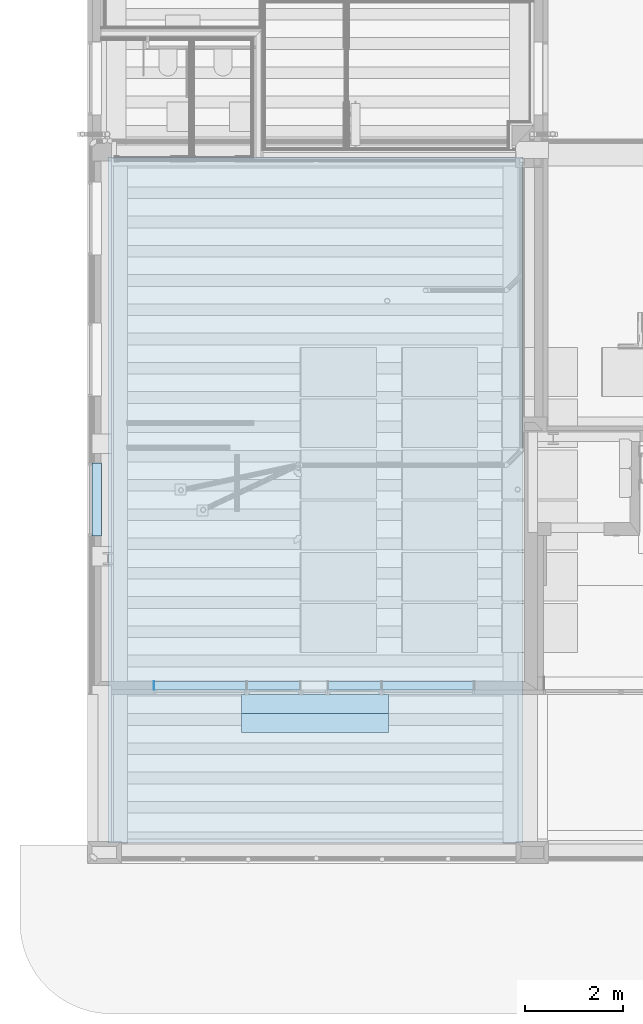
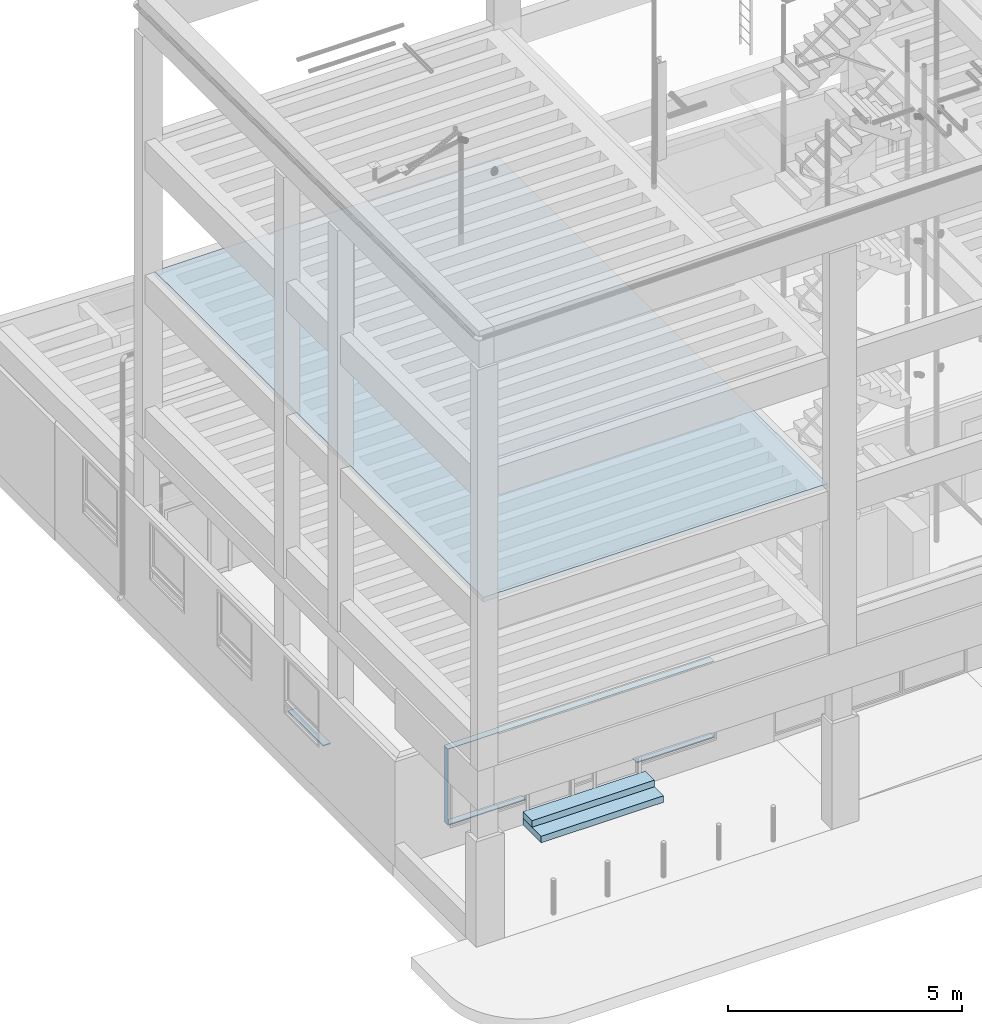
# One storey, part 14 of 108: 8 slabs.
"""IFC2X3 building model written with IfcOpenShell, lengths in metres."""

from ifc_helpers import new_model, entity, si_unit, converted_unit, derived_unit, money_unit, direction, origin_with_axes, place, context, subcontext, project, spatial, faceted_brep, material, type_object, element, save


model = new_model("IFC2X3")

# Units and contexts
model_context = context("Model", 3, precision=1e-05, world=origin_with_axes(), true_north=direction((0.0, 1.0)))
body_context = subcontext(model_context, "Body", "Model", "MODEL_VIEW", scale=1.0)
ifc_project = project(units=[si_unit("LENGTHUNIT", "METRE"), si_unit("AREAUNIT", "SQUARE_METRE"), si_unit("VOLUMEUNIT", "CUBIC_METRE"), si_unit("ABSORBEDDOSEUNIT", "GRAY"), si_unit("AMOUNTOFSUBSTANCEUNIT", "MOLE"), si_unit("DOSEEQUIVALENTUNIT", "SIEVERT"), si_unit("ELECTRICCAPACITANCEUNIT", "FARAD"), si_unit("ELECTRICCHARGEUNIT", "COULOMB"), si_unit("ELECTRICCONDUCTANCEUNIT", "SIEMENS"), si_unit("ELECTRICCURRENTUNIT", "AMPERE"), si_unit("ELECTRICRESISTANCEUNIT", "OHM"), si_unit("ELECTRICVOLTAGEUNIT", "VOLT"), si_unit("ENERGYUNIT", "JOULE"), si_unit("FORCEUNIT", "NEWTON"), si_unit("FREQUENCYUNIT", "HERTZ"), si_unit("ILLUMINANCEUNIT", "LUX"), si_unit("INDUCTANCEUNIT", "HENRY"), si_unit("LUMINOUSFLUXUNIT", "LUMEN"), si_unit("LUMINOUSINTENSITYUNIT", "CANDELA"), si_unit("MAGNETICFLUXDENSITYUNIT", "TESLA"), si_unit("MAGNETICFLUXUNIT", "WEBER"), si_unit("MASSUNIT", "GRAM"), converted_unit("PLANEANGLEUNIT", "degree", entity("IfcReal", 0.0174532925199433), si_unit("PLANEANGLEUNIT", "RADIAN"), dimensions=[0, 0, 0, 0, 0, 0, 0]), si_unit("POWERUNIT", "WATT"), si_unit("PRESSUREUNIT", "PASCAL"), si_unit("RADIOACTIVITYUNIT", "BECQUEREL"), si_unit("SOLIDANGLEUNIT", "STERADIAN"), si_unit("THERMODYNAMICTEMPERATUREUNIT", "KELVIN"), si_unit("TIMEUNIT", "SECOND"), derived_unit("ACCELERATIONUNIT", [(si_unit("LENGTHUNIT", "METRE"), 1), (si_unit("TIMEUNIT", "SECOND"), -2)]), derived_unit("ANGULARVELOCITYUNIT", [(converted_unit("PLANEANGLEUNIT", "degree", entity("IfcReal", 0.0174532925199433), si_unit("PLANEANGLEUNIT", "RADIAN"), dimensions=[0, 0, 0, 0, 0, 0, 0]), 1), (si_unit("TIMEUNIT", "SECOND"), -1)]), derived_unit("CURVATUREUNIT", [(converted_unit("PLANEANGLEUNIT", "degree", entity("IfcReal", 0.0174532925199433), si_unit("PLANEANGLEUNIT", "RADIAN"), dimensions=[0, 0, 0, 0, 0, 0, 0]), 1), (si_unit("LENGTHUNIT", "METRE"), -1)]), derived_unit("DYNAMICVISCOSITYUNIT", [(si_unit("PRESSUREUNIT", "PASCAL"), 1), (si_unit("TIMEUNIT", "SECOND"), 1)]), derived_unit("HEATFLUXDENSITYUNIT", [(si_unit("POWERUNIT", "WATT"), 1), (si_unit("LENGTHUNIT", "METRE"), -2)]), derived_unit("HEATINGVALUEUNIT", [(si_unit("ENERGYUNIT", "JOULE"), 1), (si_unit("MASSUNIT", "GRAM"), -1)]), derived_unit("INTEGERCOUNTRATEUNIT", [(si_unit("TIMEUNIT", "SECOND"), -1)]), derived_unit("IONCONCENTRATIONUNIT", [(si_unit("MASSUNIT", "GRAM"), 1), (si_unit("VOLUMEUNIT", "CUBIC_METRE"), -1)]), derived_unit("ISOTHERMALMOISTURECAPACITYUNIT", [(si_unit("VOLUMEUNIT", "CUBIC_METRE"), 1), (si_unit("MASSUNIT", "GRAM"), -1)]), derived_unit("KINEMATICVISCOSITYUNIT", [(si_unit("AREAUNIT", "SQUARE_METRE"), 1), (si_unit("TIMEUNIT", "SECOND"), -1)]), derived_unit("LINEARFORCEUNIT", [(si_unit("FORCEUNIT", "NEWTON"), 1), (si_unit("LENGTHUNIT", "METRE"), -1)]), derived_unit("LINEARMOMENTUNIT", [(si_unit("FORCEUNIT", "NEWTON"), 1), (si_unit("LENGTHUNIT", "METRE"), -1)]), derived_unit("LINEARSTIFFNESSUNIT", [(si_unit("FORCEUNIT", "NEWTON"), 1), (si_unit("LENGTHUNIT", "METRE"), -1)]), derived_unit("LINEARVELOCITYUNIT", [(si_unit("LENGTHUNIT", "METRE"), 1), (si_unit("TIMEUNIT", "SECOND"), -1)]), derived_unit("LUMINOUSINTENSITYDISTRIBUTIONUNIT", [(si_unit("LUMINOUSINTENSITYUNIT", "CANDELA"), 1), (si_unit("LUMINOUSFLUXUNIT", "LUMEN"), -1)]), derived_unit("MASSDENSITYUNIT", [(si_unit("MASSUNIT", "GRAM"), 1), (si_unit("VOLUMEUNIT", "CUBIC_METRE"), -1)]), derived_unit("MASSFLOWRATEUNIT", [(si_unit("MASSUNIT", "GRAM"), 1), (si_unit("TIMEUNIT", "SECOND"), -1)]), derived_unit("MASSPERLENGTHUNIT", [(si_unit("MASSUNIT", "GRAM"), 1), (si_unit("LENGTHUNIT", "METRE"), -1)]), derived_unit("MODULUSOFELASTICITYUNIT", [(si_unit("FORCEUNIT", "NEWTON"), 1), (si_unit("AREAUNIT", "SQUARE_METRE"), -1)]), derived_unit("MODULUSOFLINEARSUBGRADEREACTIONUNIT", [(si_unit("FORCEUNIT", "NEWTON"), 1), (si_unit("LENGTHUNIT", "METRE"), -2)]), derived_unit("MODULUSOFROTATIONALSUBGRADEREACTIONUNIT", [(si_unit("FORCEUNIT", "NEWTON"), 1), (si_unit("LENGTHUNIT", "METRE"), 1)]), derived_unit("MODULUSOFSUBGRADEREACTIONUNIT", [(si_unit("FORCEUNIT", "NEWTON"), 1), (si_unit("VOLUMEUNIT", "CUBIC_METRE"), -1)]), derived_unit("MOISTUREDIFFUSIVITYUNIT", [(si_unit("VOLUMEUNIT", "CUBIC_METRE"), 1), (si_unit("TIMEUNIT", "SECOND"), -1)]), derived_unit("MOLECULARWEIGHTUNIT", [(si_unit("MASSUNIT", "GRAM"), 1), (si_unit("AMOUNTOFSUBSTANCEUNIT", "MOLE"), -1)]), derived_unit("PLANARFORCEUNIT", [(si_unit("FORCEUNIT", "NEWTON"), 1), (si_unit("LENGTHUNIT", "METRE"), -2)]), derived_unit("ROTATIONALFREQUENCYUNIT", [(si_unit("TIMEUNIT", "SECOND"), -1)]), derived_unit("ROTATIONALMASSUNIT", [(si_unit("MASSUNIT", "GRAM"), 1), (si_unit("LENGTHUNIT", "METRE"), 2)]), derived_unit("ROTATIONALSTIFFNESSUNIT", [(si_unit("FORCEUNIT", "NEWTON"), 1), (si_unit("LENGTHUNIT", "METRE"), 1), (converted_unit("PLANEANGLEUNIT", "degree", entity("IfcReal", 0.0174532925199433), si_unit("PLANEANGLEUNIT", "RADIAN"), dimensions=[0, 0, 0, 0, 0, 0, 0]), -1)]), derived_unit("SECTIONAREAINTEGRALUNIT", [(si_unit("LENGTHUNIT", "METRE"), 5)]), derived_unit("SECTIONMODULUSUNIT", [(si_unit("LENGTHUNIT", "METRE"), 3)]), derived_unit("SHEARMODULUSUNIT", [(si_unit("FORCEUNIT", "NEWTON"), 1), (si_unit("AREAUNIT", "SQUARE_METRE"), -1)]), derived_unit("SOUNDPOWERUNIT", [(si_unit("ENERGYUNIT", "JOULE"), 1), (si_unit("TIMEUNIT", "SECOND"), -1)]), derived_unit("SPECIFICHEATCAPACITYUNIT", [(si_unit("FORCEUNIT", "NEWTON"), 1), (si_unit("MASSUNIT", "GRAM"), -1), (si_unit("THERMODYNAMICTEMPERATUREUNIT", "KELVIN"), -1)]), derived_unit("TEMPERATUREGRADIENTUNIT", [(si_unit("THERMODYNAMICTEMPERATUREUNIT", "KELVIN"), 1), (si_unit("LENGTHUNIT", "METRE"), -1)]), derived_unit("THERMALADMITTANCEUNIT", [(si_unit("POWERUNIT", "WATT"), 1), (si_unit("AREAUNIT", "SQUARE_METRE"), -1), (si_unit("THERMODYNAMICTEMPERATUREUNIT", "KELVIN"), -1)]), derived_unit("THERMALCONDUCTANCEUNIT", [(si_unit("POWERUNIT", "WATT"), 1), (si_unit("LENGTHUNIT", "METRE"), -1), (si_unit("THERMODYNAMICTEMPERATUREUNIT", "KELVIN"), -1)]), derived_unit("THERMALEXPANSIONCOEFFICIENTUNIT", [(si_unit("THERMODYNAMICTEMPERATUREUNIT", "KELVIN"), -1)]), derived_unit("THERMALRESISTANCEUNIT", [(si_unit("AREAUNIT", "SQUARE_METRE"), 1), (si_unit("POWERUNIT", "WATT"), -1)]), derived_unit("THERMALTRANSMITTANCEUNIT", [(si_unit("POWERUNIT", "WATT"), 1), (si_unit("AREAUNIT", "SQUARE_METRE"), -1), (si_unit("THERMODYNAMICTEMPERATUREUNIT", "KELVIN"), -1)]), derived_unit("TORQUEUNIT", [(si_unit("FORCEUNIT", "NEWTON"), 1), (si_unit("LENGTHUNIT", "METRE"), 1)]), derived_unit("VAPORPERMEABILITYUNIT", [(si_unit("MASSUNIT", "GRAM"), 1), (si_unit("TIMEUNIT", "SECOND"), -1)]), derived_unit("VOLUMETRICFLOWRATEUNIT", [(si_unit("VOLUMEUNIT", "CUBIC_METRE"), 1), (si_unit("TIMEUNIT", "SECOND"), -1)]), derived_unit("WARPINGCONSTANTUNIT", [(si_unit("LENGTHUNIT", "METRE"), 6)]), derived_unit("WARPINGMOMENTUNIT", [(si_unit("FORCEUNIT", "NEWTON"), 1), (si_unit("LENGTHUNIT", "METRE"), 2)]), money_unit("GBP")], contexts=[model_context])

# Site, building, storey
site_placement = place(None, origin_with_axes())
site = spatial("IfcSite", under=ifc_project, at=site_placement, Name="Site", CompositionType="ELEMENT")
building_placement = place(site_placement, origin_with_axes())
building = spatial("IfcBuilding", under=site, at=building_placement, Name="Building01", CompositionType="ELEMENT")
storey_placement = place(building_placement, origin_with_axes())
storey = spatial("IfcBuildingStorey", under=building, at=storey_placement, Name="GF", CompositionType="ELEMENT", Elevation=0.0)

# Slabs
ifc_material_1 = material(Name="A_BSUK_Slabs")
slab_type = type_object("IfcSlabType", Name="A-FloorsSlabs A_BSUK_Slabs", PredefinedType="FLOOR")
placement = place(storey_placement, origin_with_axes())
element("IfcSlab", 1, at=placement, inside=storey, type_object=slab_type, material=ifc_material_1, Name="A-FloorsSlabs A_BSUK_Slabs", ObjectType="CompoundSlabLeaf", context=body_context, shape_type="Brep", body=[
    faceted_brep([(3.157929, 2.679398, -0.145), (3.157929, 2.679398, 0.025), (3.157929, 3.459398, 0.025), (3.157929, 3.459398, -0.145), (6.178553, 2.679398, -0.145), (6.178553, 2.679398, 0.025), (6.178553, 3.459284, -0.145), (6.178553, 3.459284, 0.025)], [[[0, 1, 2, 3]], [[4, 5, 1, 0]], [[6, 7, 5, 4]], [[3, 2, 7, 6]], [[1, 5, 7, 2]], [[3, 6, 4, 0]]]),
])
element("IfcSlab", 2, at=placement, inside=storey, type_object=slab_type, material=ifc_material_1, Name="A-FloorsSlabs A_BSUK_Slabs", ObjectType="CompoundSlabLeaf", context=body_context, shape_type="Brep", body=[
    faceted_brep([(3.157929, 3.069398, 0.025), (3.157929, 3.069398, 0.198), (3.157929, 3.459398, 0.198), (3.157929, 3.459398, 0.025), (6.178553, 3.069398, 0.025), (6.178553, 3.069398, 0.198), (6.178553, 3.459284, 0.025), (6.178553, 3.459284, 0.198)], [[[0, 1, 2, 3]], [[4, 5, 1, 0]], [[6, 7, 5, 4]], [[3, 2, 7, 6]], [[1, 5, 7, 2]], [[3, 6, 4, 0]]]),
])
element("IfcSlab", 3, at=placement, inside=storey, type_object=slab_type, material=ifc_material_1, Name="A-FloorsSlabs A_BSUK_Slabs", ObjectType="CompoundSlabLeaf", context=body_context, shape_type="Brep", body=[
    faceted_brep([(1.361681, 3.559009, 0.398), (1.361681, 3.559009, 0.423), (1.361681, 3.733332, 0.423), (1.361681, 3.733332, 0.398), (3.276681, 3.559009, 0.398), (3.276681, 3.559009, 0.423), (3.276681, 3.733298, 0.398), (3.276681, 3.733298, 0.423)], [[[0, 1, 2, 3]], [[4, 5, 1, 0]], [[6, 7, 5, 4]], [[3, 2, 7, 6]], [[1, 5, 7, 2]], [[3, 6, 4, 0]]]),
])
element("IfcSlab", 4, at=placement, inside=storey, type_object=slab_type, material=ifc_material_1, Name="A-FloorsSlabs A_BSUK_Slabs", ObjectType="CompoundSlabLeaf", context=body_context, shape_type="Brep", body=[
    faceted_brep([(6.026681, 3.559009, 0.398), (6.026681, 3.559009, 0.423), (6.026681, 3.733332, 0.423), (6.026681, 3.733332, 0.398), (7.941681, 3.559009, 0.398), (7.941681, 3.559009, 0.423), (7.941681, 3.733298, 0.398), (7.941681, 3.733298, 0.423)], [[[0, 1, 2, 3]], [[4, 5, 1, 0]], [[6, 7, 5, 4]], [[3, 2, 7, 6]], [[1, 5, 7, 2]], [[3, 6, 4, 0]]]),
])
element("IfcSlab", 5, at=placement, inside=storey, type_object=slab_type, material=ifc_material_1, Name="A-FloorsSlabs A_BSUK_Slabs", ObjectType="CompoundSlabLeaf", context=body_context, shape_type="Brep", body=[
    faceted_brep([(1.361681, 3.559009, 2.383), (1.361681, 3.559009, 2.398), (1.361681, 3.733332, 2.398), (1.361681, 3.733332, 2.383), (7.941681, 3.559009, 2.383), (7.941681, 3.559009, 2.398), (7.941681, 3.733298, 2.383), (7.941681, 3.733298, 2.398)], [[[0, 1, 2, 3]], [[4, 5, 1, 0]], [[6, 7, 5, 4]], [[3, 2, 7, 6]], [[1, 5, 7, 2]], [[3, 6, 4, 0]]]),
])
element("IfcSlab", 6, at=placement, inside=storey, type_object=slab_type, material=ifc_material_1, Name="A-FloorsSlabs A_BSUK_Slabs", ObjectType="CompoundSlabLeaf", context=body_context, shape_type="Brep", body=[
    faceted_brep([(1.376681, 3.559009, 0.413), (1.361681, 3.559009, 0.413), (1.361681, 3.733332, 0.413), (1.376681, 3.733332, 0.413), (1.376681, 3.55892, 2.383), (1.361681, 3.55892, 2.383), (1.376681, 3.733208, 2.383), (1.361681, 3.733208, 2.383)], [[[0, 1, 2, 3]], [[4, 5, 1, 0]], [[6, 7, 5, 4]], [[3, 2, 7, 6]], [[1, 5, 7, 2]], [[3, 6, 4, 0]]]),
])
ifc_material_2 = material(Name="A_BSUK_Timber_Miscellaneous")
element("IfcSlab", 7, at=placement, inside=storey, type_object=slab_type, material=ifc_material_2, Name="A-FloorsSlabs A_BSUK_Slabs", ObjectType="CompoundSlabLeaf", context=body_context, shape_type="Brep", body=[
    faceted_brep([(0.100088, 8.212761, 0.998), (0.100088, 8.212761, 1.023), (0.287079, 8.212761, 1.023), (0.287079, 8.212761, 0.998), (0.100088, 6.712761, 0.998), (0.100088, 6.712761, 1.023), (0.287079, 6.712761, 0.998), (0.287079, 6.712761, 1.023)], [[[0, 1, 2, 3]], [[4, 5, 1, 0]], [[6, 7, 5, 4]], [[3, 2, 7, 6]], [[1, 5, 7, 2]], [[3, 6, 4, 0]]]),
])
element("IfcSlab", 8, at=placement, inside=storey, type_object=slab_type, material=ifc_material_1, Name="A-FloorsSlabs A_BSUK_Slabs", ObjectType="CompoundSlabLeaf", context=body_context, shape_type="Brep", body=[
    faceted_brep([(0.42, 14.48, 8.47), (0.42, 14.48, 8.59), (8.925, 14.48, 8.59), (8.925, 14.48, 8.47), (0.42, 0.42, 8.47), (0.42, 0.42, 8.59), (8.925, 0.42, 8.47), (8.925, 0.42, 8.59)], [[[0, 1, 2, 3]], [[4, 5, 1, 0]], [[6, 7, 5, 4]], [[3, 2, 7, 6]], [[1, 5, 7, 2]], [[3, 6, 4, 0]]]),
])

save(model, "model.ifc")
